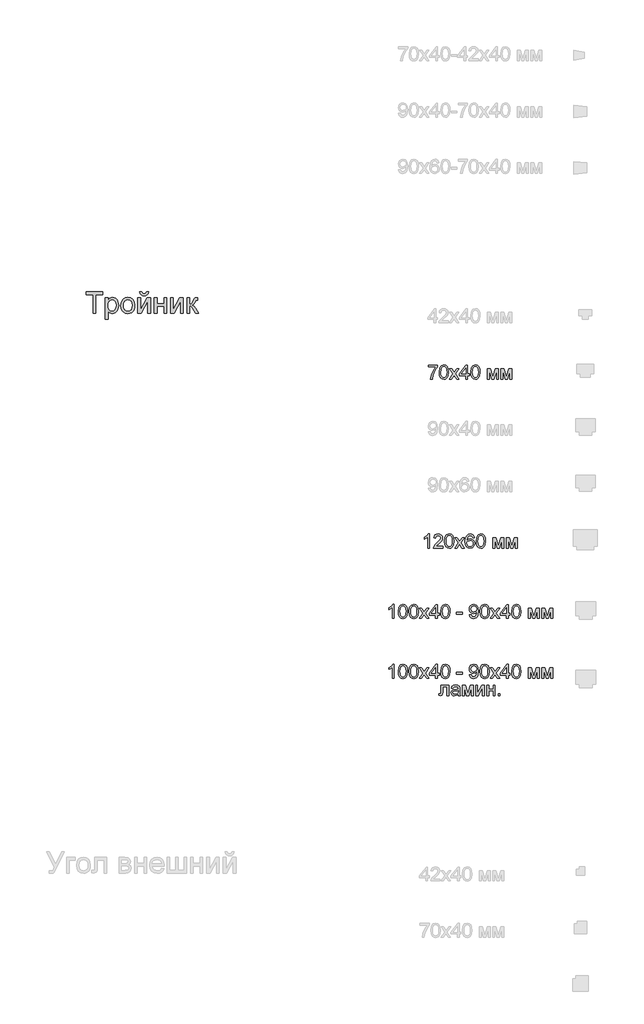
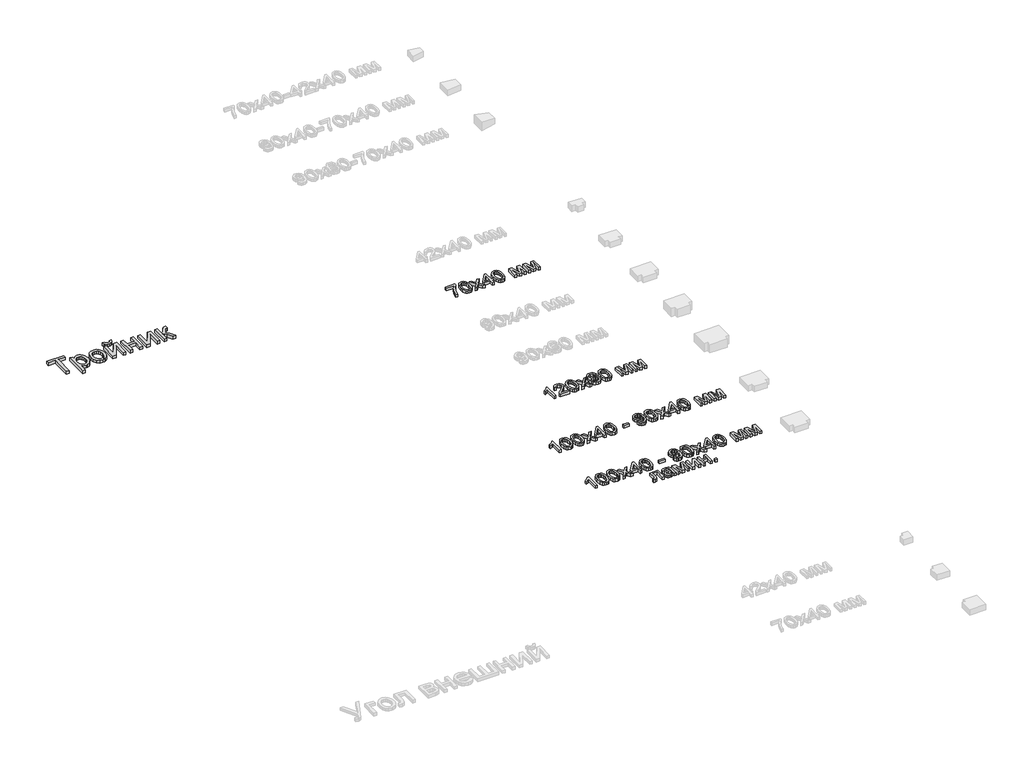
# One storey, part 15 of 21: 5 proxies.
"""IFC4 building model written with IfcOpenShell, lengths in millimetres."""

from ifc_helpers import new_model, si_unit, origin, origin_with_axes, place, context, project, spatial, polyline, outline, extrude, element, save

model = new_model("IFC4")

# Units and contexts
model_context = context("Model", 3, world=origin())
ifc_project = project(units=[si_unit("LENGTHUNIT", "METRE", prefix="MILLI")], contexts=[model_context])

# Site, building, storey
site = spatial("IfcSite", under=ifc_project)
building = spatial("IfcBuilding", under=site)
storey = spatial("IfcBuildingStorey", under=building, Name="Этаж 01", Elevation=0.0)

# Proxies
placement = place(None, origin())
element("IfcBuildingElementProxy", 1, Name="150 мм Arial", ObjectType="150 мм Arial", at=placement, inside=storey, context=model_context, shape_type="SweptSolid", body=[
    extrude(outline(polyline([(20425.8137204, -4727.6403006), (20425.8137204, -4595.7913935), (20376.3703802, -4595.7913935), (20376.3703802, -4576.9558353), (20494.0926187, -4576.9558353), (20494.0926187, -4595.7913935), (20444.6492785, -4595.7913935), (20444.6492785, -4727.6403006), (20425.8137204, -4727.6403006)])), origin_with_axes(), (0.0, 0.0, 1.0), 20.0),
    extrude(outline(polyline([(20512.9281768, -4770.0203064), (20512.9281768, -4616.9813964), (20531.763735, -4616.9813964), (20531.763735, -4635.4490726), (20544.7867576, -4619.8324819), (20562.371517, -4614.6269516), (20575.1094311, -4616.4479675), (20586.2470585, -4621.9110151), (20595.3153496, -4630.6850007), (20601.8452551, -4642.4388305), (20607.1059676, -4671.4647199), (20605.620644, -4687.5733528), (20601.1646734, -4701.9805314), (20593.8806099, -4713.9550903), (20583.9110078, -4722.7658641), (20572.2997323, -4728.187525), (20560.0906486, -4729.9947453), (20543.7015057, -4725.1570971), (20531.763735, -4712.9250207), (20531.763735, -4770.0203064), (20512.9281768, -4770.0203064)]), holes=[polyline([(20531.763735, -4673.1937653), (20533.8008815, -4690.0795488), (20539.9123212, -4701.8885609), (20548.9300286, -4708.8415306), (20559.6859784, -4711.1591872), (20570.6166722, -4708.7587572), (20579.8643058, -4701.5574671), (20586.1688835, -4689.3161937), (20588.2704094, -4671.7958137), (20586.2194673, -4655.0020006), (20580.0666409, -4643.0274417), (20571.0627291, -4635.8537428), (20560.4585306, -4633.4625098), (20549.8129454, -4636.0054941), (20540.4641442, -4643.634447), (20533.9388373, -4656.1102451), (20531.763735, -4673.1937653)])]), origin_with_axes(), (0.0, 0.0, 1.0), 20.0),
    extrude(outline(polyline([(20623.587081, -4672.3108485), (20627.6613741, -4645.6302068), (20639.8842534, -4626.8774221), (20654.9858093, -4617.6895692), (20673.0672093, -4614.6269516), (20692.8546621, -4618.3563554), (20708.6597924, -4629.5445665), (20719.020269, -4647.3086684), (20722.4737613, -4670.7657441), (20720.947051, -4689.7944403), (20716.3669202, -4704.2797939), (20708.866726, -4715.1277142), (20698.5798257, -4723.2441107), (20686.3615449, -4728.3070867), (20673.0672093, -4729.9947453), (20653.0406332, -4726.2791372), (20637.2538971, -4715.1323127), (20627.003785, -4696.9957304), (20623.587081, -4672.3108485)]), holes=[polyline([(20642.4226391, -4672.2740603), (20644.60234, -4689.3207922), (20651.1414424, -4701.4654966), (20660.9822858, -4708.7357645), (20673.0672093, -4711.1591872), (20685.0969506, -4708.721969), (20694.9193998, -4701.4103143), (20701.4585023, -4689.1046616), (20703.6382031, -4671.6854491), (20701.4447067, -4655.1353578), (20694.8642175, -4643.1562004), (20685.0279727, -4635.8859324), (20673.0672093, -4633.4625098), (20660.9822858, -4635.8767354), (20651.1414424, -4643.1194122), (20644.60234, -4655.2365254), (20642.4226391, -4672.2740603)])]), origin_with_axes(), (0.0, 0.0, 1.0), 20.0),
    extrude(outline(polyline([(20804.8793282, -4576.9558353), (20819.0059968, -4576.9558353), (20815.9663718, -4589.0177662), (20809.8641292, -4597.906715), (20800.9751805, -4603.3835582), (20789.5754372, -4605.2091726), (20777.2054051, -4603.3973537), (20767.6128821, -4597.9618973), (20761.0553855, -4589.0867441), (20757.7904328, -4576.9558353), (20771.9171014, -4576.9558353), (20777.2146022, -4587.5692309), (20787.88318, -4591.0825039), (20799.5818275, -4587.6795955), (20804.8793282, -4576.9558353)])), origin_with_axes(), (0.0, 0.0, 1.0), 20.0),
    extrude(outline(polyline([(20743.6637642, -4616.9813964), (20762.4993224, -4616.9813964), (20762.4993224, -4701.3735261), (20808.7788773, -4616.9813964), (20833.1326654, -4616.9813964), (20833.1326654, -4727.6403006), (20814.2971073, -4727.6403006), (20814.2971073, -4643.7632057), (20768.3118579, -4727.6403006), (20743.6637642, -4727.6403006), (20743.6637642, -4616.9813964)])), origin_with_axes(), (0.0, 0.0, 1.0), 20.0),
    extrude(outline(polyline([(20861.3860027, -4616.9813964), (20880.2215608, -4616.9813964), (20880.2215608, -4659.3614022), (20929.664901, -4659.3614022), (20929.664901, -4616.9813964), (20948.5004591, -4616.9813964), (20948.5004591, -4727.6403006), (20929.664901, -4727.6403006), (20929.664901, -4678.1969604), (20880.2215608, -4678.1969604), (20880.2215608, -4727.6403006), (20861.3860027, -4727.6403006), (20861.3860027, -4616.9813964)])), origin_with_axes(), (0.0, 0.0, 1.0), 20.0),
    extrude(outline(polyline([(20976.7537963, -4616.9813964), (20995.5893545, -4616.9813964), (20995.5893545, -4701.3735261), (21041.8689095, -4616.9813964), (21066.2226976, -4616.9813964), (21066.2226976, -4727.6403006), (21047.3871394, -4727.6403006), (21047.3871394, -4643.7632057), (21001.40189, -4727.6403006), (20976.7537963, -4727.6403006), (20976.7537963, -4616.9813964)])), origin_with_axes(), (0.0, 0.0, 1.0), 20.0),
    extrude(outline(polyline([(21094.4760348, -4616.9813964), (21113.311593, -4616.9813964), (21113.311593, -4664.0702918), (21125.9299454, -4660.6857774), (21136.2674295, -4640.9673025), (21144.857474, -4623.9527602), (21152.4358431, -4618.4161362), (21166.2130239, -4616.9813964), (21169.8182674, -4616.9813964), (21169.8182674, -4635.9273192), (21164.7414959, -4635.8169546), (21155.544446, -4637.8035173), (21149.0697229, -4650.2011406), (21141.4729597, -4663.6104393), (21130.8227759, -4670.1771329), (21142.7053644, -4677.5071817), (21154.3672236, -4692.9490284), (21174.527157, -4727.6403006), (21153.1164248, -4727.6403006), (21133.3611617, -4693.6847924), (21123.4283478, -4679.3190005), (21113.311593, -4675.8425156), (21113.311593, -4727.6403006), (21094.4760348, -4727.6403006), (21094.4760348, -4616.9813964)])), origin_with_axes(), (0.0, 0.0, 1.0), 20.0),
])
element("IfcBuildingElementProxy", 2, Name="100 мм Arial", ObjectType="100 мм Arial", at=placement, inside=storey, context=model_context, shape_type="SweptSolid", body=[
    extrude(outline(polyline([(22808.1085294, -5108.554992), (22808.1085294, -5095.9979532), (22874.0329829, -5095.9979532), (22874.0329829, -5106.1514963), (22855.3323148, -5133.1662975), (22841.0217052, -5167.5877895), (22836.3618666, -5194.8846335), (22823.8048278, -5194.8846335), (22828.7957602, -5166.5577199), (22842.4932332, -5134.5397236), (22861.4759442, -5108.554992), (22808.1085294, -5108.554992)])), origin_with_axes(), (0.0, 0.0, 1.0), 20.0),
    extrude(outline(polyline([(22885.0203918, -5145.4658188), (22888.7114745, -5116.5625567), (22899.674358, -5099.8975024), (22917.9826186, -5094.4283234), (22932.6488475, -5097.6656849), (22942.7778651, -5106.9976249), (22948.663977, -5121.8600575), (22950.9448454, -5145.4658188), (22947.2905509, -5174.2464536), (22936.3644556, -5190.9482962), (22928.133096, -5195.0777716), (22917.9826186, -5196.4542634), (22904.9350705, -5194.0630304), (22895.0267821, -5186.8893315), (22887.5219894, -5169.8993147), (22885.0203918, -5145.4658188)]), holes=[polyline([(22897.5774306, -5145.4412934), (22899.0489586, -5165.1934908), (22903.4635425, -5176.6254238), (22910.0363675, -5182.0792744), (22917.9826186, -5183.8972246), (22925.9288697, -5182.073143), (22932.5016947, -5176.6008984), (22936.9162786, -5165.162834), (22938.3878066, -5145.4412934), (22936.9653296, -5126.13362), (22932.6978984, -5114.6127822), (22926.1373362, -5108.8922171), (22917.8354658, -5106.9853621), (22909.9750538, -5108.6653566), (22903.6597463, -5113.7053399), (22899.0980095, -5125.9435476), (22897.5774306, -5145.4412934)])]), origin_with_axes(), (0.0, 0.0, 1.0), 20.0),
    extrude(outline(polyline([(22957.2233648, -5194.8846335), (22984.0542249, -5157.8021284), (22958.7929946, -5121.1120307), (22973.9006819, -5121.1120307), (22986.0898386, -5138.7703665), (22991.7797468, -5147.1090251), (22996.7093656, -5140.2909454), (23010.5907795, -5121.1120307), (23025.6984668, -5121.1120307), (22999.1619122, -5157.8021284), (23024.7174481, -5194.8846335), (23009.6097609, -5194.8846335), (22994.2322935, -5172.5909846), (22991.4118648, -5168.5197572), (22972.331052, -5194.8846335), (22957.2233648, -5194.8846335)])), origin_with_axes(), (0.0, 0.0, 1.0), 20.0),
    extrude(outline(polyline([(23073.3759734, -5194.8846335), (23073.3759734, -5171.3401858), (23027.8567078, -5171.3401858), (23027.8567078, -5158.7831471), (23076.5152331, -5095.9979532), (23085.9330121, -5095.9979532), (23085.9330121, -5158.7831471), (23098.4900509, -5158.7831471), (23098.4900509, -5171.3401858), (23085.9330121, -5171.3401858), (23085.9330121, -5194.8846335), (23073.3759734, -5194.8846335)]), holes=[polyline([(23073.3759734, -5158.7831471), (23073.3759734, -5119.9838593), (23043.3077516, -5158.7831471), (23073.3759734, -5158.7831471)])]), origin_with_axes(), (0.0, 0.0, 1.0), 20.0),
    extrude(outline(polyline([(23109.4774598, -5145.4658188), (23113.1685425, -5116.5625567), (23124.131426, -5099.8975024), (23142.4396866, -5094.4283234), (23157.1059155, -5097.6656849), (23167.2349331, -5106.9976249), (23173.121045, -5121.8600575), (23175.4019134, -5145.4658188), (23171.7476189, -5174.2464536), (23160.8215236, -5190.9482962), (23152.590164, -5195.0777716), (23142.4396866, -5196.4542634), (23129.3921385, -5194.0630304), (23119.4838501, -5186.8893315), (23111.9790574, -5169.8993147), (23109.4774598, -5145.4658188)]), holes=[polyline([(23122.0344986, -5145.4412934), (23123.5060266, -5165.1934908), (23127.9206105, -5176.6254238), (23134.4934355, -5182.0792744), (23142.4396866, -5183.8972246), (23150.3859377, -5182.073143), (23156.9587627, -5176.6008984), (23161.3733466, -5165.162834), (23162.8448746, -5145.4412934), (23161.4223976, -5126.13362), (23157.1549664, -5114.6127822), (23150.5944042, -5108.8922171), (23142.2925338, -5106.9853621), (23134.4321218, -5108.6653566), (23128.1168143, -5113.7053399), (23123.5550775, -5125.9435476), (23122.0344986, -5145.4412934)])]), origin_with_axes(), (0.0, 0.0, 1.0), 20.0),
    extrude(outline(polyline([(23228.7693281, -5121.1120307), (23250.376264, -5121.1120307), (23267.0290556, -5180.1693537), (23284.981697, -5121.1120307), (23305.6811906, -5121.1120307), (23305.6811906, -5194.8846335), (23293.1241518, -5194.8846335), (23293.1241518, -5135.483954), (23275.0734086, -5194.8846335), (23258.5922952, -5194.8846335), (23241.3263669, -5132.6389999), (23241.3263669, -5194.8846335), (23228.7693281, -5194.8846335), (23228.7693281, -5121.1120307)])), origin_with_axes(), (0.0, 0.0, 1.0), 20.0),
    extrude(outline(polyline([(23324.5167487, -5121.1120307), (23346.1236846, -5121.1120307), (23362.7764762, -5180.1693537), (23380.7291176, -5121.1120307), (23401.4286112, -5121.1120307), (23401.4286112, -5194.8846335), (23388.8715724, -5194.8846335), (23388.8715724, -5135.483954), (23370.8208292, -5194.8846335), (23354.3397158, -5194.8846335), (23337.0737875, -5132.6389999), (23337.0737875, -5194.8846335), (23324.5167487, -5194.8846335), (23324.5167487, -5121.1120307)])), origin_with_axes(), (0.0, 0.0, 1.0), 20.0),
])
element("IfcBuildingElementProxy", 3, Name="100 мм Arial", ObjectType="100 мм Arial", at=placement, inside=storey, context=model_context, shape_type="SweptSolid", body=[
    extrude(outline(polyline([(22816.7414935, -6394.8846335), (22804.1844548, -6394.8846335), (22804.1844548, -6316.5993449), (22792.2896036, -6325.0728936), (22779.0703772, -6331.4127266), (22779.0703772, -6319.5424009), (22797.4767397, -6307.7947025), (22808.6480896, -6294.4283234), (22816.7414935, -6294.4283234), (22816.7414935, -6394.8846335)])), origin_with_axes(), (0.0, 0.0, 1.0), 20.0),
    extrude(outline(polyline([(22910.9192843, -6382.3275947), (22910.9192843, -6394.8846335), (22844.9948308, -6394.8846335), (22846.3437314, -6386.2271439), (22853.9711514, -6372.8975529), (22869.6919754, -6358.3416887), (22891.3724876, -6337.4214659), (22896.7926157, -6323.1966954), (22891.679056, -6311.6819889), (22878.3249395, -6306.9853621), (22864.4067374, -6311.5716243), (22859.1214994, -6324.2512904), (22846.5644606, -6322.6816606), (22849.6086841, -6310.5354234), (22856.1907062, -6301.6633359), (22865.9671702, -6296.2370765), (22878.5947197, -6294.4283234), (22891.3142396, -6296.4394116), (22901.0723096, -6302.4726763), (22907.2803182, -6311.4857852), (22909.3496545, -6322.4364059), (22907.117837, -6334.3435198), (22899.6988834, -6346.6553039), (22881.7094539, -6363.8599186), (22867.2639542, -6375.9387108), (22861.5985715, -6382.3275947), (22910.9192843, -6382.3275947)])), origin_with_axes(), (0.0, 0.0, 1.0), 20.0),
    extrude(outline(polyline([(22923.4763231, -6345.4658188), (22927.1674058, -6316.5625567), (22938.1302892, -6299.8975024), (22956.4385498, -6294.4283234), (22971.1047787, -6297.6656849), (22981.2337963, -6306.9976249), (22987.1199082, -6321.8600575), (22989.4007766, -6345.4658188), (22985.7464821, -6374.2464536), (22974.8203869, -6390.9482962), (22966.5890272, -6395.0777716), (22956.4385498, -6396.4542634), (22943.3910017, -6394.0630304), (22933.4827133, -6386.8893315), (22925.9779206, -6369.8993147), (22923.4763231, -6345.4658188)]), holes=[polyline([(22936.0333618, -6345.4412934), (22937.5048898, -6365.1934908), (22941.9194738, -6376.6254238), (22948.4922987, -6382.0792744), (22956.4385498, -6383.8972246), (22964.3848009, -6382.073143), (22970.9576259, -6376.6008984), (22975.3722099, -6365.162834), (22976.8437378, -6345.4412934), (22975.4212608, -6326.13362), (22971.1538296, -6314.6127822), (22964.5932674, -6308.8922171), (22956.291397, -6306.9853621), (22948.4309851, -6308.6653566), (22942.1156775, -6313.7053399), (22937.5539408, -6325.9435476), (22936.0333618, -6345.4412934)])]), origin_with_axes(), (0.0, 0.0, 1.0), 20.0),
    extrude(outline(polyline([(22995.679296, -6394.8846335), (23022.5101562, -6357.8021284), (22997.2489258, -6321.1120307), (23012.3566131, -6321.1120307), (23024.5457699, -6338.7703665), (23030.2356781, -6347.1090251), (23035.1652968, -6340.2909454), (23049.0467108, -6321.1120307), (23064.154398, -6321.1120307), (23037.6178434, -6357.8021284), (23063.1733794, -6394.8846335), (23048.0656921, -6394.8846335), (23032.6882247, -6372.5909846), (23029.8677961, -6368.5197572), (23010.7869833, -6394.8846335), (22995.679296, -6394.8846335)])), origin_with_axes(), (0.0, 0.0, 1.0), 20.0),
    extrude(outline(polyline([(23135.3763523, -6321.1120307), (23122.8193135, -6322.6816606), (23118.0613731, -6312.2092865), (23105.4798088, -6306.9853621), (23094.1490434, -6310.02652), (23085.5773929, -6321.4431245), (23082.0089375, -6343.8226126), (23093.0821856, -6333.8039596), (23106.804184, -6330.5298098), (23118.4047296, -6332.7677586), (23128.1413397, -6339.481605), (23134.7448215, -6349.7393813), (23136.9459821, -6362.6091198), (23132.8011783, -6379.9363618), (23121.3968365, -6392.1990949), (23104.9402486, -6396.4542634), (23090.6940183, -6393.6338347), (23079.3479244, -6385.1725488), (23071.9259052, -6370.2365398), (23069.4518988, -6347.9919419), (23072.198751, -6322.9820976), (23080.4393077, -6305.8817161), (23091.6903654, -6297.2916716), (23106.2646237, -6294.4283234), (23117.2826895, -6296.2002883), (23126.105726, -6301.5161831), (23132.2861435, -6309.9590749), (23135.3763523, -6321.1120307)]), holes=[polyline([(23082.0089375, -6362.4129161), (23084.9152053, -6373.2899604), (23092.6407272, -6381.1871606), (23103.9592299, -6383.8972246), (23112.2457718, -6382.4931416), (23118.7603488, -6378.2808928), (23122.9817947, -6371.6590169), (23124.3889434, -6363.0260527), (23123.0001888, -6354.7395108), (23118.8339252, -6348.4211375), (23112.2089836, -6344.4204208), (23103.4441951, -6343.0868486), (23088.2506687, -6348.4211375), (23083.5693703, -6354.5862266), (23082.0089375, -6362.4129161)])]), origin_with_axes(), (0.0, 0.0, 1.0), 20.0),
    extrude(outline(polyline([(23147.9333911, -6345.4658188), (23151.6244737, -6316.5625567), (23162.5873572, -6299.8975024), (23180.8956178, -6294.4283234), (23195.5618467, -6297.6656849), (23205.6908643, -6306.9976249), (23211.5769762, -6321.8600575), (23213.8578446, -6345.4658188), (23210.2035501, -6374.2464536), (23199.2774549, -6390.9482962), (23191.0460952, -6395.0777716), (23180.8956178, -6396.4542634), (23167.8480697, -6394.0630304), (23157.9397813, -6386.8893315), (23150.4349886, -6369.8993147), (23147.9333911, -6345.4658188)]), holes=[polyline([(23160.4904298, -6345.4412934), (23161.9619578, -6365.1934908), (23166.3765418, -6376.6254238), (23172.9493667, -6382.0792744), (23180.8956178, -6383.8972246), (23188.8418689, -6382.073143), (23195.4146939, -6376.6008984), (23199.8292778, -6365.162834), (23201.3008058, -6345.4412934), (23199.8783288, -6326.13362), (23195.6108976, -6314.6127822), (23189.0503354, -6308.8922171), (23180.748465, -6306.9853621), (23172.8880531, -6308.6653566), (23166.5727455, -6313.7053399), (23162.0110087, -6325.9435476), (23160.4904298, -6345.4412934)])]), origin_with_axes(), (0.0, 0.0, 1.0), 20.0),
    extrude(outline(polyline([(23267.2252594, -6321.1120307), (23288.8321952, -6321.1120307), (23305.4849869, -6380.1693537), (23323.4376282, -6321.1120307), (23344.1371218, -6321.1120307), (23344.1371218, -6394.8846335), (23331.5800831, -6394.8846335), (23331.5800831, -6335.483954), (23313.5293398, -6394.8846335), (23297.0482264, -6394.8846335), (23279.7822981, -6332.6389999), (23279.7822981, -6394.8846335), (23267.2252594, -6394.8846335), (23267.2252594, -6321.1120307)])), origin_with_axes(), (0.0, 0.0, 1.0), 20.0),
    extrude(outline(polyline([(23362.97268, -6321.1120307), (23384.5796158, -6321.1120307), (23401.2324075, -6380.1693537), (23419.1850488, -6321.1120307), (23439.8845424, -6321.1120307), (23439.8845424, -6394.8846335), (23427.3275037, -6394.8846335), (23427.3275037, -6335.483954), (23409.2767604, -6394.8846335), (23392.7956471, -6394.8846335), (23375.5297187, -6332.6389999), (23375.5297187, -6394.8846335), (23362.97268, -6394.8846335), (23362.97268, -6321.1120307)])), origin_with_axes(), (0.0, 0.0, 1.0), 20.0),
])
element("IfcBuildingElementProxy", 4, Name="100 мм Arial", ObjectType="100 мм Arial", at=placement, inside=storey, context=model_context, shape_type="SweptSolid", body=[
    extrude(outline(polyline([(22564.8159032, -6894.8846335), (22552.2588645, -6894.8846335), (22552.2588645, -6816.5993449), (22540.3640133, -6825.0728936), (22527.1447869, -6831.4127266), (22527.1447869, -6819.5424009), (22545.5511494, -6807.7947025), (22556.7224993, -6794.4283234), (22564.8159032, -6794.4283234), (22564.8159032, -6894.8846335)])), origin_with_axes(), (0.0, 0.0, 1.0), 20.0),
    extrude(outline(polyline([(22594.6388703, -6845.4658188), (22598.329953, -6816.5625567), (22609.2928365, -6799.8975024), (22627.6010971, -6794.4283234), (22642.267326, -6797.6656849), (22652.3963436, -6806.9976249), (22658.2824555, -6821.8600575), (22660.5633239, -6845.4658188), (22656.9090294, -6874.2464536), (22645.9829341, -6890.9482962), (22637.7515745, -6895.0777716), (22627.6010971, -6896.4542634), (22614.553549, -6894.0630304), (22604.6452606, -6886.8893315), (22597.1404679, -6869.8993147), (22594.6388703, -6845.4658188)]), holes=[polyline([(22607.1959091, -6845.4412934), (22608.6674371, -6865.1934908), (22613.082021, -6876.6254238), (22619.654846, -6882.0792744), (22627.6010971, -6883.8972246), (22635.5473482, -6882.073143), (22642.1201732, -6876.6008984), (22646.5347571, -6865.162834), (22648.0062851, -6845.4412934), (22646.583808, -6826.13362), (22642.3163769, -6814.6127822), (22635.7558146, -6808.8922171), (22627.4539443, -6806.9853621), (22619.5935323, -6808.6653566), (22613.2782247, -6813.7053399), (22608.716488, -6825.9435476), (22607.1959091, -6845.4412934)])]), origin_with_axes(), (0.0, 0.0, 1.0), 20.0),
    extrude(outline(polyline([(22671.5507328, -6845.4658188), (22675.2418155, -6816.5625567), (22686.2046989, -6799.8975024), (22704.5129595, -6794.4283234), (22719.1791884, -6797.6656849), (22729.308206, -6806.9976249), (22735.1943179, -6821.8600575), (22737.4751863, -6845.4658188), (22733.8208918, -6874.2464536), (22722.8947966, -6890.9482962), (22714.6634369, -6895.0777716), (22704.5129595, -6896.4542634), (22691.4654114, -6894.0630304), (22681.557123, -6886.8893315), (22674.0523303, -6869.8993147), (22671.5507328, -6845.4658188)]), holes=[polyline([(22684.1077715, -6845.4412934), (22685.5792995, -6865.1934908), (22689.9938835, -6876.6254238), (22696.5667084, -6882.0792744), (22704.5129595, -6883.8972246), (22712.4592106, -6882.073143), (22719.0320356, -6876.6008984), (22723.4466196, -6865.162834), (22724.9181475, -6845.4412934), (22723.4956705, -6826.13362), (22719.2282393, -6814.6127822), (22712.6676771, -6808.8922171), (22704.3658067, -6806.9853621), (22696.5053948, -6808.6653566), (22690.1900872, -6813.7053399), (22685.6283505, -6825.9435476), (22684.1077715, -6845.4412934)])]), origin_with_axes(), (0.0, 0.0, 1.0), 20.0),
    extrude(outline(polyline([(22743.7537057, -6894.8846335), (22770.5845659, -6857.8021284), (22745.3233355, -6821.1120307), (22760.4310228, -6821.1120307), (22772.6201796, -6838.7703665), (22778.3100878, -6847.1090251), (22783.2397065, -6840.2909454), (22797.1211205, -6821.1120307), (22812.2288077, -6821.1120307), (22785.6922531, -6857.8021284), (22811.2477891, -6894.8846335), (22796.1401018, -6894.8846335), (22780.7626344, -6872.5909846), (22777.9422058, -6868.5197572), (22758.861393, -6894.8846335), (22743.7537057, -6894.8846335)])), origin_with_axes(), (0.0, 0.0, 1.0), 20.0),
    extrude(outline(polyline([(22859.9063143, -6894.8846335), (22859.9063143, -6871.3401858), (22814.3870488, -6871.3401858), (22814.3870488, -6858.7831471), (22863.045574, -6795.9979532), (22872.4633531, -6795.9979532), (22872.4633531, -6858.7831471), (22885.0203918, -6858.7831471), (22885.0203918, -6871.3401858), (22872.4633531, -6871.3401858), (22872.4633531, -6894.8846335), (22859.9063143, -6894.8846335)]), holes=[polyline([(22859.9063143, -6858.7831471), (22859.9063143, -6819.9838593), (22829.8380926, -6858.7831471), (22859.9063143, -6858.7831471)])]), origin_with_axes(), (0.0, 0.0, 1.0), 20.0),
    extrude(outline(polyline([(22896.0078008, -6845.4658188), (22899.6988834, -6816.5625567), (22910.6617669, -6799.8975024), (22928.9700275, -6794.4283234), (22943.6362564, -6797.6656849), (22953.765274, -6806.9976249), (22959.6513859, -6821.8600575), (22961.9322543, -6845.4658188), (22958.2779598, -6874.2464536), (22947.3518646, -6890.9482962), (22939.1205049, -6895.0777716), (22928.9700275, -6896.4542634), (22915.9224794, -6894.0630304), (22906.014191, -6886.8893315), (22898.5093983, -6869.8993147), (22896.0078008, -6845.4658188)]), holes=[polyline([(22908.5648395, -6845.4412934), (22910.0363675, -6865.1934908), (22914.4509515, -6876.6254238), (22921.0237764, -6882.0792744), (22928.9700275, -6883.8972246), (22936.9162786, -6882.073143), (22943.4891036, -6876.6008984), (22947.9036876, -6865.162834), (22949.3752155, -6845.4412934), (22947.9527385, -6826.13362), (22943.6853073, -6814.6127822), (22937.1247451, -6808.8922171), (22928.8228747, -6806.9853621), (22920.9624628, -6808.6653566), (22914.6471552, -6813.7053399), (22910.0854184, -6825.9435476), (22908.5648395, -6845.4412934)])]), origin_with_axes(), (0.0, 0.0, 1.0), 20.0),
    extrude(outline(polyline([(23009.0211497, -6865.0616664), (23009.0211497, -6852.5046277), (23048.2618958, -6852.5046277), (23048.2618958, -6865.0616664), (23009.0211497, -6865.0616664)])), origin_with_axes(), (0.0, 0.0, 1.0), 20.0),
    extrude(outline(polyline([(23100.0596808, -6869.770556), (23112.6167195, -6868.2009261), (23118.2575768, -6880.1816164), (23128.9506801, -6883.8972246), (23139.1164859, -6881.5059916), (23146.008142, -6875.1171076), (23150.1161576, -6864.2032751), (23151.9310421, -6849.6351481), (23151.8574657, -6847.1826015), (23141.8142872, -6856.6984824), (23128.0432379, -6860.3527769), (23116.5929108, -6858.1209595), (23107.0617014, -6851.4255071), (23100.6329635, -6841.0818917), (23098.4900509, -6827.9055849), (23100.7371968, -6814.2939511), (23107.4786343, -6803.6253732), (23117.6045862, -6796.7275858), (23130.0052752, -6794.4283234), (23147.8966029, -6799.6767732), (23160.208387, -6814.6373076), (23164.4145044, -6842.7434921), (23160.2206497, -6873.2409095), (23155.0059224, -6883.2319713), (23147.7494501, -6890.5191005), (23138.7639323, -6894.9704726), (23128.3620689, -6896.4542634), (23117.626046, -6894.7037582), (23109.0605269, -6889.4522427), (23103.0701817, -6881.0308107), (23100.0596808, -6869.770556)]), holes=[polyline([(23151.8574657, -6827.6112793), (23150.5024337, -6819.1009425), (23146.4373376, -6812.552643), (23140.1281614, -6808.3771823), (23132.0408889, -6806.9853621), (23123.6531794, -6808.4844813), (23116.9332016, -6812.9818387), (23112.5186177, -6819.8642976), (23111.0470897, -6828.5187216), (23112.4389099, -6836.277966), (23116.6143705, -6842.4369237), (23123.1688014, -6846.4560345), (23131.6975323, -6847.7957381), (23146.1798202, -6842.4369237), (23150.4380543, -6836.0511054), (23151.8574657, -6827.6112793)])]), origin_with_axes(), (0.0, 0.0, 1.0), 20.0),
    extrude(outline(polyline([(23175.4019134, -6845.4658188), (23179.0929961, -6816.5625567), (23190.0558795, -6799.8975024), (23208.3641401, -6794.4283234), (23223.030369, -6797.6656849), (23233.1593866, -6806.9976249), (23239.0454985, -6821.8600575), (23241.3263669, -6845.4658188), (23237.6720724, -6874.2464536), (23226.7459772, -6890.9482962), (23218.5146175, -6895.0777716), (23208.3641401, -6896.4542634), (23195.316592, -6894.0630304), (23185.4083036, -6886.8893315), (23177.9035109, -6869.8993147), (23175.4019134, -6845.4658188)]), holes=[polyline([(23187.9589521, -6845.4412934), (23189.4304801, -6865.1934908), (23193.8450641, -6876.6254238), (23200.417889, -6882.0792744), (23208.3641401, -6883.8972246), (23216.3103912, -6882.073143), (23222.8832162, -6876.6008984), (23227.2978002, -6865.162834), (23228.7693281, -6845.4412934), (23227.3468511, -6826.13362), (23223.0794199, -6814.6127822), (23216.5188577, -6808.8922171), (23208.2169873, -6806.9853621), (23200.3565754, -6808.6653566), (23194.0412678, -6813.7053399), (23189.479531, -6825.9435476), (23187.9589521, -6845.4412934)])]), origin_with_axes(), (0.0, 0.0, 1.0), 20.0),
    extrude(outline(polyline([(23247.6048863, -6894.8846335), (23274.4357465, -6857.8021284), (23249.1745161, -6821.1120307), (23264.2822034, -6821.1120307), (23276.4713602, -6838.7703665), (23282.1612684, -6847.1090251), (23287.0908871, -6840.2909454), (23300.9723011, -6821.1120307), (23316.0799883, -6821.1120307), (23289.5434337, -6857.8021284), (23315.0989697, -6894.8846335), (23299.9912824, -6894.8846335), (23284.613815, -6872.5909846), (23281.7933864, -6868.5197572), (23262.7125736, -6894.8846335), (23247.6048863, -6894.8846335)])), origin_with_axes(), (0.0, 0.0, 1.0), 20.0),
    extrude(outline(polyline([(23363.7574949, -6894.8846335), (23363.7574949, -6871.3401858), (23318.2382294, -6871.3401858), (23318.2382294, -6858.7831471), (23366.8967546, -6795.9979532), (23376.3145337, -6795.9979532), (23376.3145337, -6858.7831471), (23388.8715724, -6858.7831471), (23388.8715724, -6871.3401858), (23376.3145337, -6871.3401858), (23376.3145337, -6894.8846335), (23363.7574949, -6894.8846335)]), holes=[polyline([(23363.7574949, -6858.7831471), (23363.7574949, -6819.9838593), (23333.6892732, -6858.7831471), (23363.7574949, -6858.7831471)])]), origin_with_axes(), (0.0, 0.0, 1.0), 20.0),
    extrude(outline(polyline([(23399.8589814, -6845.4658188), (23403.550064, -6816.5625567), (23414.5129475, -6799.8975024), (23432.8212081, -6794.4283234), (23447.487437, -6797.6656849), (23457.6164546, -6806.9976249), (23463.5025665, -6821.8600575), (23465.7834349, -6845.4658188), (23462.1291404, -6874.2464536), (23451.2030452, -6890.9482962), (23442.9716855, -6895.0777716), (23432.8212081, -6896.4542634), (23419.77366, -6894.0630304), (23409.8653716, -6886.8893315), (23402.3605789, -6869.8993147), (23399.8589814, -6845.4658188)]), holes=[polyline([(23412.4160201, -6845.4412934), (23413.8875481, -6865.1934908), (23418.302132, -6876.6254238), (23424.874957, -6882.0792744), (23432.8212081, -6883.8972246), (23440.7674592, -6882.073143), (23447.3402842, -6876.6008984), (23451.7548681, -6865.162834), (23453.2263961, -6845.4412934), (23451.8039191, -6826.13362), (23447.5364879, -6814.6127822), (23440.9759257, -6808.8922171), (23432.6740553, -6806.9853621), (23424.8136434, -6808.6653566), (23418.4983358, -6813.7053399), (23413.936599, -6825.9435476), (23412.4160201, -6845.4412934)])]), origin_with_axes(), (0.0, 0.0, 1.0), 20.0),
    extrude(outline(polyline([(23519.1508497, -6821.1120307), (23540.7577855, -6821.1120307), (23557.4105772, -6880.1693537), (23575.3632185, -6821.1120307), (23596.0627121, -6821.1120307), (23596.0627121, -6894.8846335), (23583.5056734, -6894.8846335), (23583.5056734, -6835.483954), (23565.4549301, -6894.8846335), (23548.9738167, -6894.8846335), (23531.7078884, -6832.6389999), (23531.7078884, -6894.8846335), (23519.1508497, -6894.8846335), (23519.1508497, -6821.1120307)])), origin_with_axes(), (0.0, 0.0, 1.0), 20.0),
    extrude(outline(polyline([(23614.8982703, -6821.1120307), (23636.5052061, -6821.1120307), (23653.1579978, -6880.1693537), (23671.1106391, -6821.1120307), (23691.8101327, -6821.1120307), (23691.8101327, -6894.8846335), (23679.253094, -6894.8846335), (23679.253094, -6835.483954), (23661.2023507, -6894.8846335), (23644.7212373, -6894.8846335), (23627.455309, -6832.6389999), (23627.455309, -6894.8846335), (23614.8982703, -6894.8846335), (23614.8982703, -6821.1120307)])), origin_with_axes(), (0.0, 0.0, 1.0), 20.0),
])
element("IfcBuildingElementProxy", 5, Name="100 мм Arial", ObjectType="100 мм Arial", at=placement, inside=storey, context=model_context, shape_type="SweptSolid", body=[
    extrude(outline(polyline([(22564.8159032, -7320.0775003), (22552.2588645, -7320.0775003), (22552.2588645, -7241.7922117), (22540.3640133, -7250.2657603), (22527.1447869, -7256.6055934), (22527.1447869, -7244.7352676), (22545.5511494, -7232.9875693), (22556.7224993, -7219.6211901), (22564.8159032, -7219.6211901), (22564.8159032, -7320.0775003)])), origin_with_axes(), (0.0, 0.0, 1.0), 20.0),
    extrude(outline(polyline([(22594.6388703, -7270.6586856), (22598.329953, -7241.7554235), (22609.2928365, -7225.0903691), (22627.6010971, -7219.6211901), (22642.267326, -7222.8585517), (22652.3963436, -7232.1904916), (22658.2824555, -7247.0529242), (22660.5633239, -7270.6586856), (22656.9090294, -7299.4393203), (22645.9829341, -7316.1411629), (22637.7515745, -7320.2706383), (22627.6010971, -7321.6471301), (22614.553549, -7319.2558971), (22604.6452606, -7312.0821982), (22597.1404679, -7295.0921814), (22594.6388703, -7270.6586856)]), holes=[polyline([(22607.1959091, -7270.6341601), (22608.6674371, -7290.3863576), (22613.082021, -7301.8182906), (22619.654846, -7307.2721411), (22627.6010971, -7309.0900913), (22635.5473482, -7307.2660098), (22642.1201732, -7301.7937651), (22646.5347571, -7290.3557007), (22648.0062851, -7270.6341601), (22646.583808, -7251.3264867), (22642.3163769, -7239.8056489), (22635.7558146, -7234.0850839), (22627.4539443, -7232.1782289), (22619.5935323, -7233.8582233), (22613.2782247, -7238.8982067), (22608.716488, -7251.1364144), (22607.1959091, -7270.6341601)])]), origin_with_axes(), (0.0, 0.0, 1.0), 20.0),
    extrude(outline(polyline([(22671.5507328, -7270.6586856), (22675.2418155, -7241.7554235), (22686.2046989, -7225.0903691), (22704.5129595, -7219.6211901), (22719.1791884, -7222.8585517), (22729.308206, -7232.1904916), (22735.1943179, -7247.0529242), (22737.4751863, -7270.6586856), (22733.8208918, -7299.4393203), (22722.8947966, -7316.1411629), (22714.6634369, -7320.2706383), (22704.5129595, -7321.6471301), (22691.4654114, -7319.2558971), (22681.557123, -7312.0821982), (22674.0523303, -7295.0921814), (22671.5507328, -7270.6586856)]), holes=[polyline([(22684.1077715, -7270.6341601), (22685.5792995, -7290.3863576), (22689.9938835, -7301.8182906), (22696.5667084, -7307.2721411), (22704.5129595, -7309.0900913), (22712.4592106, -7307.2660098), (22719.0320356, -7301.7937651), (22723.4466196, -7290.3557007), (22724.9181475, -7270.6341601), (22723.4956705, -7251.3264867), (22719.2282393, -7239.8056489), (22712.6676771, -7234.0850839), (22704.3658067, -7232.1782289), (22696.5053948, -7233.8582233), (22690.1900872, -7238.8982067), (22685.6283505, -7251.1364144), (22684.1077715, -7270.6341601)])]), origin_with_axes(), (0.0, 0.0, 1.0), 20.0),
    extrude(outline(polyline([(22743.7537057, -7320.0775003), (22770.5845659, -7282.9949951), (22745.3233355, -7246.3048975), (22760.4310228, -7246.3048975), (22772.6201796, -7263.9632333), (22778.3100878, -7272.3018918), (22783.2397065, -7265.4838122), (22797.1211205, -7246.3048975), (22812.2288077, -7246.3048975), (22785.6922531, -7282.9949951), (22811.2477891, -7320.0775003), (22796.1401018, -7320.0775003), (22780.7626344, -7297.7838513), (22777.9422058, -7293.7126239), (22758.861393, -7320.0775003), (22743.7537057, -7320.0775003)])), origin_with_axes(), (0.0, 0.0, 1.0), 20.0),
    extrude(outline(polyline([(22859.9063143, -7320.0775003), (22859.9063143, -7296.5330526), (22814.3870488, -7296.5330526), (22814.3870488, -7283.9760138), (22863.045574, -7221.19082), (22872.4633531, -7221.19082), (22872.4633531, -7283.9760138), (22885.0203918, -7283.9760138), (22885.0203918, -7296.5330526), (22872.4633531, -7296.5330526), (22872.4633531, -7320.0775003), (22859.9063143, -7320.0775003)]), holes=[polyline([(22859.9063143, -7283.9760138), (22859.9063143, -7245.176726), (22829.8380926, -7283.9760138), (22859.9063143, -7283.9760138)])]), origin_with_axes(), (0.0, 0.0, 1.0), 20.0),
    extrude(outline(polyline([(22896.0078008, -7270.6586856), (22899.6988834, -7241.7554235), (22910.6617669, -7225.0903691), (22928.9700275, -7219.6211901), (22943.6362564, -7222.8585517), (22953.765274, -7232.1904916), (22959.6513859, -7247.0529242), (22961.9322543, -7270.6586856), (22958.2779598, -7299.4393203), (22947.3518646, -7316.1411629), (22939.1205049, -7320.2706383), (22928.9700275, -7321.6471301), (22915.9224794, -7319.2558971), (22906.014191, -7312.0821982), (22898.5093983, -7295.0921814), (22896.0078008, -7270.6586856)]), holes=[polyline([(22908.5648395, -7270.6341601), (22910.0363675, -7290.3863576), (22914.4509515, -7301.8182906), (22921.0237764, -7307.2721411), (22928.9700275, -7309.0900913), (22936.9162786, -7307.2660098), (22943.4891036, -7301.7937651), (22947.9036876, -7290.3557007), (22949.3752155, -7270.6341601), (22947.9527385, -7251.3264867), (22943.6853073, -7239.8056489), (22937.1247451, -7234.0850839), (22928.8228747, -7232.1782289), (22920.9624628, -7233.8582233), (22914.6471552, -7238.8982067), (22910.0854184, -7251.1364144), (22908.5648395, -7270.6341601)])]), origin_with_axes(), (0.0, 0.0, 1.0), 20.0),
    extrude(outline(polyline([(23009.0211497, -7290.2545332), (23009.0211497, -7277.6974944), (23048.2618958, -7277.6974944), (23048.2618958, -7290.2545332), (23009.0211497, -7290.2545332)])), origin_with_axes(), (0.0, 0.0, 1.0), 20.0),
    extrude(outline(polyline([(23100.0596808, -7294.9634227), (23112.6167195, -7293.3937929), (23118.2575768, -7305.3744832), (23128.9506801, -7309.0900913), (23139.1164859, -7306.6988584), (23146.008142, -7300.3099744), (23150.1161576, -7289.3961419), (23151.9310421, -7274.8280148), (23151.8574657, -7272.3754682), (23141.8142872, -7281.8913492), (23128.0432379, -7285.5456436), (23116.5929108, -7283.3138262), (23107.0617014, -7276.6183739), (23100.6329635, -7266.2747585), (23098.4900509, -7253.0984517), (23100.7371968, -7239.4868178), (23107.4786343, -7228.81824), (23117.6045862, -7221.9204526), (23130.0052752, -7219.6211901), (23147.8966029, -7224.8696399), (23160.208387, -7239.8301744), (23164.4145044, -7267.9363588), (23160.2206497, -7298.4337762), (23155.0059224, -7308.4248381), (23147.7494501, -7315.7119672), (23138.7639323, -7320.1633394), (23128.3620689, -7321.6471301), (23117.626046, -7319.8966249), (23109.0605269, -7314.6451095), (23103.0701817, -7306.2236775), (23100.0596808, -7294.9634227)]), holes=[polyline([(23151.8574657, -7252.8041461), (23150.5024337, -7244.2938092), (23146.4373376, -7237.7455097), (23140.1281614, -7233.5700491), (23132.0408889, -7232.1782289), (23123.6531794, -7233.677348), (23116.9332016, -7238.1747054), (23112.5186177, -7245.0571644), (23111.0470897, -7253.7115883), (23112.4389099, -7261.4708327), (23116.6143705, -7267.6297905), (23123.1688014, -7271.6489013), (23131.6975323, -7272.9886049), (23146.1798202, -7267.6297905), (23150.4380543, -7261.2439722), (23151.8574657, -7252.8041461)])]), origin_with_axes(), (0.0, 0.0, 1.0), 20.0),
    extrude(outline(polyline([(23175.4019134, -7270.6586856), (23179.0929961, -7241.7554235), (23190.0558795, -7225.0903691), (23208.3641401, -7219.6211901), (23223.030369, -7222.8585517), (23233.1593866, -7232.1904916), (23239.0454985, -7247.0529242), (23241.3263669, -7270.6586856), (23237.6720724, -7299.4393203), (23226.7459772, -7316.1411629), (23218.5146175, -7320.2706383), (23208.3641401, -7321.6471301), (23195.316592, -7319.2558971), (23185.4083036, -7312.0821982), (23177.9035109, -7295.0921814), (23175.4019134, -7270.6586856)]), holes=[polyline([(23187.9589521, -7270.6341601), (23189.4304801, -7290.3863576), (23193.8450641, -7301.8182906), (23200.417889, -7307.2721411), (23208.3641401, -7309.0900913), (23216.3103912, -7307.2660098), (23222.8832162, -7301.7937651), (23227.2978002, -7290.3557007), (23228.7693281, -7270.6341601), (23227.3468511, -7251.3264867), (23223.0794199, -7239.8056489), (23216.5188577, -7234.0850839), (23208.2169873, -7232.1782289), (23200.3565754, -7233.8582233), (23194.0412678, -7238.8982067), (23189.479531, -7251.1364144), (23187.9589521, -7270.6341601)])]), origin_with_axes(), (0.0, 0.0, 1.0), 20.0),
    extrude(outline(polyline([(23247.6048863, -7320.0775003), (23274.4357465, -7282.9949951), (23249.1745161, -7246.3048975), (23264.2822034, -7246.3048975), (23276.4713602, -7263.9632333), (23282.1612684, -7272.3018918), (23287.0908871, -7265.4838122), (23300.9723011, -7246.3048975), (23316.0799883, -7246.3048975), (23289.5434337, -7282.9949951), (23315.0989697, -7320.0775003), (23299.9912824, -7320.0775003), (23284.613815, -7297.7838513), (23281.7933864, -7293.7126239), (23262.7125736, -7320.0775003), (23247.6048863, -7320.0775003)])), origin_with_axes(), (0.0, 0.0, 1.0), 20.0),
    extrude(outline(polyline([(23363.7574949, -7320.0775003), (23363.7574949, -7296.5330526), (23318.2382294, -7296.5330526), (23318.2382294, -7283.9760138), (23366.8967546, -7221.19082), (23376.3145337, -7221.19082), (23376.3145337, -7283.9760138), (23388.8715724, -7283.9760138), (23388.8715724, -7296.5330526), (23376.3145337, -7296.5330526), (23376.3145337, -7320.0775003), (23363.7574949, -7320.0775003)]), holes=[polyline([(23363.7574949, -7283.9760138), (23363.7574949, -7245.176726), (23333.6892732, -7283.9760138), (23363.7574949, -7283.9760138)])]), origin_with_axes(), (0.0, 0.0, 1.0), 20.0),
    extrude(outline(polyline([(23399.8589814, -7270.6586856), (23403.550064, -7241.7554235), (23414.5129475, -7225.0903691), (23432.8212081, -7219.6211901), (23447.487437, -7222.8585517), (23457.6164546, -7232.1904916), (23463.5025665, -7247.0529242), (23465.7834349, -7270.6586856), (23462.1291404, -7299.4393203), (23451.2030452, -7316.1411629), (23442.9716855, -7320.2706383), (23432.8212081, -7321.6471301), (23419.77366, -7319.2558971), (23409.8653716, -7312.0821982), (23402.3605789, -7295.0921814), (23399.8589814, -7270.6586856)]), holes=[polyline([(23412.4160201, -7270.6341601), (23413.8875481, -7290.3863576), (23418.302132, -7301.8182906), (23424.874957, -7307.2721411), (23432.8212081, -7309.0900913), (23440.7674592, -7307.2660098), (23447.3402842, -7301.7937651), (23451.7548681, -7290.3557007), (23453.2263961, -7270.6341601), (23451.8039191, -7251.3264867), (23447.5364879, -7239.8056489), (23440.9759257, -7234.0850839), (23432.6740553, -7232.1782289), (23424.8136434, -7233.8582233), (23418.4983358, -7238.8982067), (23413.936599, -7251.1364144), (23412.4160201, -7270.6341601)])]), origin_with_axes(), (0.0, 0.0, 1.0), 20.0),
    extrude(outline(polyline([(23519.1508497, -7246.3048975), (23540.7577855, -7246.3048975), (23557.4105772, -7305.3622204), (23575.3632185, -7246.3048975), (23596.0627121, -7246.3048975), (23596.0627121, -7320.0775003), (23583.5056734, -7320.0775003), (23583.5056734, -7260.6768208), (23565.4549301, -7320.0775003), (23548.9738167, -7320.0775003), (23531.7078884, -7257.8318667), (23531.7078884, -7320.0775003), (23519.1508497, -7320.0775003), (23519.1508497, -7246.3048975)])), origin_with_axes(), (0.0, 0.0, 1.0), 20.0),
    extrude(outline(polyline([(23614.8982703, -7246.3048975), (23636.5052061, -7246.3048975), (23653.1579978, -7305.3622204), (23671.1106391, -7246.3048975), (23691.8101327, -7246.3048975), (23691.8101327, -7320.0775003), (23679.253094, -7320.0775003), (23679.253094, -7260.6768208), (23661.2023507, -7320.0775003), (23644.7212373, -7320.0775003), (23627.455309, -7257.8318667), (23627.455309, -7320.0775003), (23614.8982703, -7320.0775003), (23614.8982703, -7246.3048975)])), origin_with_axes(), (0.0, 0.0, 1.0), 20.0),
    extrude(outline(polyline([(22897.5774306, -7368.2797153), (22954.0841051, -7368.2797153), (22954.0841051, -7441.9787417), (22941.5270663, -7441.9787417), (22941.5270663, -7380.8367541), (22910.1344694, -7380.8367541), (22910.1344694, -7416.0307983), (22909.2883408, -7432.266657), (22904.6407649, -7439.1215249), (22893.653356, -7442.0523181), (22883.450762, -7441.414656), (22883.450762, -7429.4952793), (22889.0670938, -7429.4952793), (22894.7447392, -7428.7227271), (22897.0133449, -7426.2701805), (22897.5774306, -7415.3195598), (22897.5774306, -7368.2797153)])), origin_with_axes(), (0.0, 0.0, 1.0), 20.0),
    extrude(outline(polyline([(23020.0085586, -7432.634539), (23007.8316646, -7441.1448758), (22994.3794463, -7443.6219479), (22983.8856124, -7442.1320259), (22976.144762, -7437.6622596), (22971.3714932, -7430.8748368), (22969.7804035, -7422.431945), (22972.1838992, -7412.4991312), (22978.4992068, -7405.288644), (22987.2915865, -7401.1683657), (22998.1563681, -7399.2799048), (23019.9349822, -7394.9634227), (23020.0085586, -7392.1675196), (23016.5504679, -7382.8968933), (23002.6690539, -7379.2671243), (22989.9648623, -7381.6828827), (22983.9070721, -7390.2545332), (22971.3500334, -7388.6849033), (22976.7824242, -7376.4221702), (22987.7207822, -7369.2362085), (23004.2877347, -7366.7100855), (23019.5057865, -7368.9419029), (23028.1019625, -7374.545972), (23031.9524607, -7383.0685715), (23032.5655974, -7394.0559805), (23032.5655974, -7409.6787025), (23033.2032595, -7431.4941048), (23035.7048571, -7442.0523181), (23023.1478183, -7442.0523181), (23020.0085586, -7432.634539)]), holes=[polyline([(23020.0085586, -7407.5204615), (22999.7505234, -7411.3709597), (22988.9470555, -7413.4065734), (22984.0542249, -7416.7175114), (22982.3374423, -7421.5490282), (22986.0775759, -7428.3425824), (22997.0527221, -7431.0649092), (23009.7569137, -7428.0605396), (23017.9484194, -7420.7887388), (23019.9349822, -7411.0766541), (23020.0085586, -7407.5204615)])]), origin_with_axes(), (0.0, 0.0, 1.0), 20.0),
    extrude(outline(polyline([(23049.8315257, -7368.2797153), (23071.4384615, -7368.2797153), (23088.0912532, -7427.3370383), (23106.0438945, -7368.2797153), (23126.7433881, -7368.2797153), (23126.7433881, -7442.0523181), (23114.1863494, -7442.0523181), (23114.1863494, -7382.6516386), (23096.1356061, -7442.0523181), (23079.6544928, -7442.0523181), (23062.3885644, -7379.8066845), (23062.3885644, -7442.0523181), (23049.8315257, -7442.0523181), (23049.8315257, -7368.2797153)])), origin_with_axes(), (0.0, 0.0, 1.0), 20.0),
    extrude(outline(polyline([(23145.5789463, -7368.2797153), (23158.1359851, -7368.2797153), (23158.1359851, -7424.5411351), (23188.9890217, -7368.2797153), (23205.2248804, -7368.2797153), (23205.2248804, -7442.0523181), (23192.6678417, -7442.0523181), (23192.6678417, -7386.1342548), (23162.0110087, -7442.0523181), (23145.5789463, -7442.0523181), (23145.5789463, -7368.2797153)])), origin_with_axes(), (0.0, 0.0, 1.0), 20.0),
    extrude(outline(polyline([(23224.0604386, -7368.2797153), (23236.6174774, -7368.2797153), (23236.6174774, -7396.5330526), (23269.5797041, -7396.5330526), (23269.5797041, -7368.2797153), (23282.1367429, -7368.2797153), (23282.1367429, -7442.0523181), (23269.5797041, -7442.0523181), (23269.5797041, -7409.0900913), (23236.6174774, -7409.0900913), (23236.6174774, -7442.0523181), (23224.0604386, -7442.0523181), (23224.0604386, -7368.2797153)])), origin_with_axes(), (0.0, 0.0, 1.0), 20.0),
    extrude(outline(polyline([(23304.1115607, -7442.0523181), (23304.1115607, -7429.4952793), (23316.6685995, -7429.4952793), (23316.6685995, -7442.0523181), (23304.1115607, -7442.0523181)])), origin_with_axes(), (0.0, 0.0, 1.0), 20.0),
])

save(model, "model.ifc")
